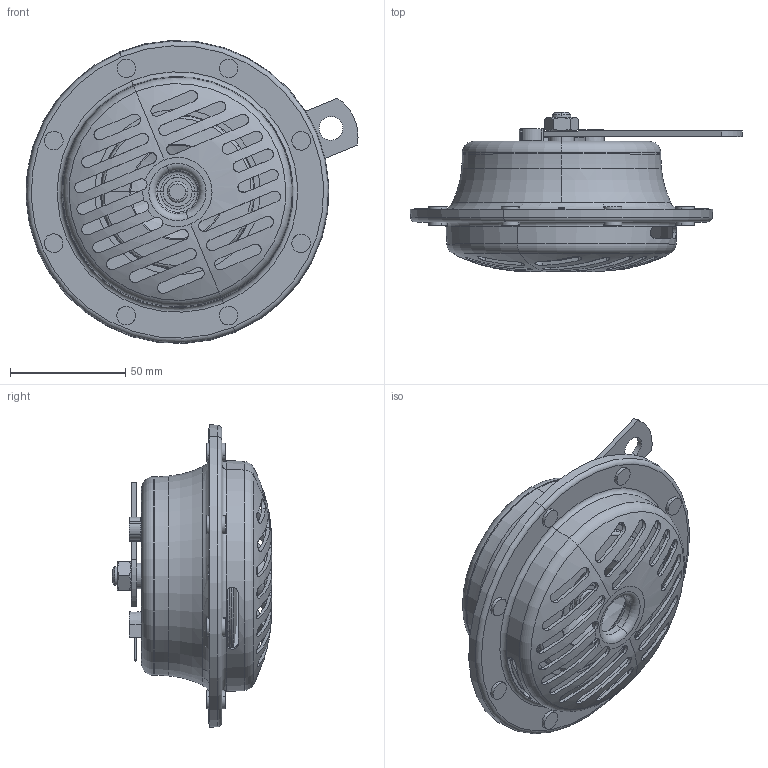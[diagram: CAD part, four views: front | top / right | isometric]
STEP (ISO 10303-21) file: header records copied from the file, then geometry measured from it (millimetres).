
FILE_DESCRIPTION(('CATIA V5 STEP Exchange','CAx-IF Rec.Pracs.--- Model Styling and Organization---1.5--- 2016-08-15','CAx-IF Rec.Pracs.---Supplemental Geometry---1.0---2011-11-01','CAx-IF Rec.Pracs.--- Composite Materials ---1.1---2010-07-15'),'2;1');
FILE_NAME('E:\tmp\ddx\2011226\HELLA_3D_data_Electromechanical_horn_DL50_V2_3CA-004-811-00.stp','2022-01-18T07:29:23+00:00',('none'),('none'),'CATIA Version 5-6 Release 2020 SP3 HF9','CATIA V5 STEP AP214 Edition 3 v2','none');
FILE_SCHEMA(('AUTOMOTIVE_DESIGN { 1 0 10303 214 3 1 1 1 }'));
Length unit declared in the file: millimetre
Products named in the file (1): 10000601656_D10_001
Bounding box: 143.88 x 69 x 131.27 mm (x, y, z)
Volume: 104077.4 mm3; surface area: 119614 mm2
Topology: 3 solids, 32 shells, 1751 faces, 5083 edges, 3455 vertices
Faces by surface type: cylinder 730, plane 534, torus 295, bspline 90, cone 60, sphere 42
Entity records: 70188 total; most frequent: CARTESIAN_POINT 27413, ORIENTED_EDGE 10102, DIRECTION 6672, EDGE_CURVE 5051, AXIS2_PLACEMENT_3D 3535, VERTEX_POINT 3455, CIRCLE 2027, EDGE_LOOP 1976
